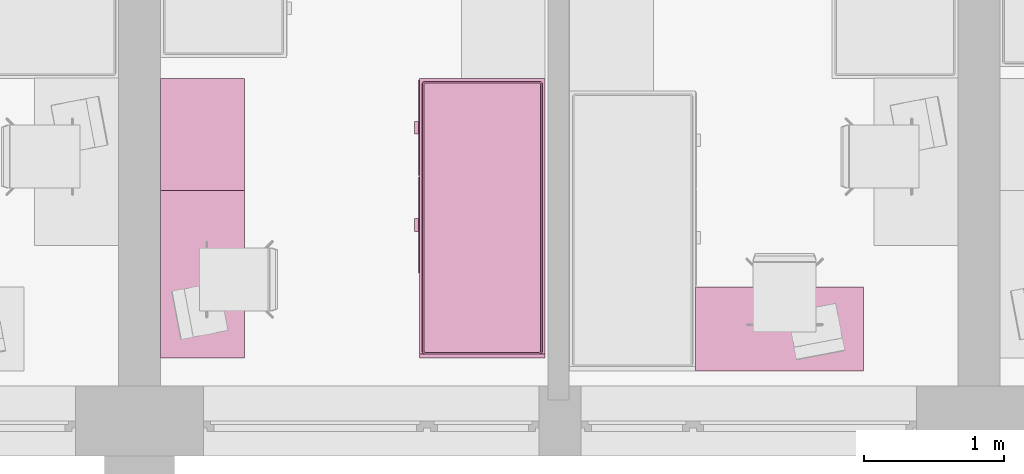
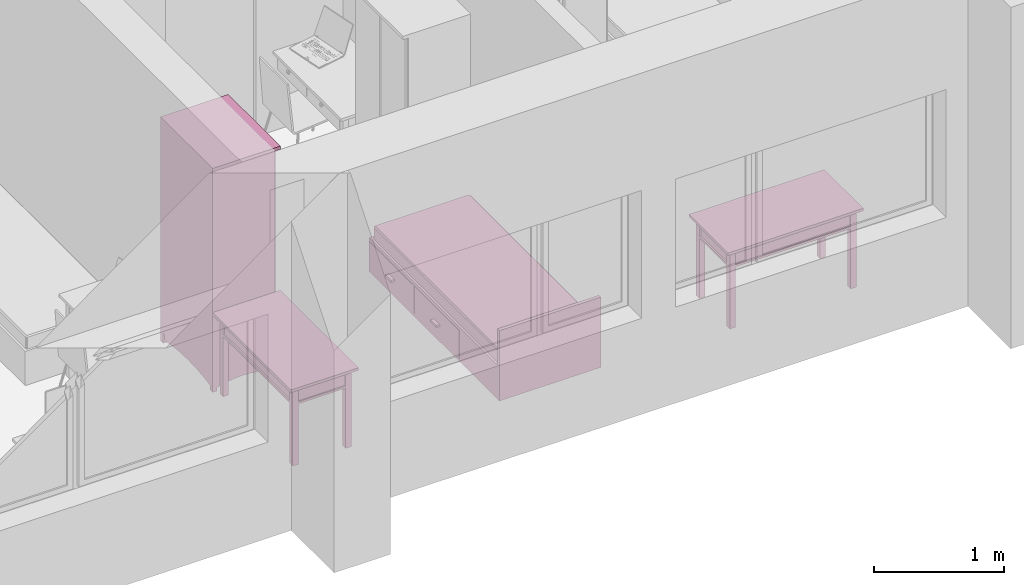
# One storey, part 76 of 165: 4 furnishings.
"""IFC2X3 building model written with IfcOpenShell, lengths in millimetres."""

from ifc_helpers import new_model, entity, si_unit, converted_unit, money_unit, direction, frame, origin_with_axes, place, context, subcontext, project, spatial, faceted_brep, source, transform, mapped, material, material_list, type_object, element, save


model = new_model("IFC2X3")

# Units and contexts
model_context = context("Model", 3, precision=1e-05, world=origin_with_axes(), true_north=direction((0.0, 1.0)))
body_context = subcontext(model_context, "Body", "Model", "MODEL_VIEW")
ifc_project = project(units=[si_unit("LENGTHUNIT", "METRE", prefix="MILLI"), si_unit("AREAUNIT", "SQUARE_METRE"), si_unit("VOLUMEUNIT", "CUBIC_METRE"), converted_unit("PLANEANGLEUNIT", "DEGREE", entity("IfcPlaneAngleMeasure", 0.0174532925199), si_unit("PLANEANGLEUNIT", "RADIAN"), dimensions=[0, 0, 0, 0, 0, 0, 0]), si_unit("SOLIDANGLEUNIT", "STERADIAN"), money_unit("USD"), converted_unit("TIMEUNIT", "Year", entity("IfcTimeMeasure", 31556926.0), si_unit("TIMEUNIT", "SECOND"), dimensions=[0, 0, 0, 0, 0, 0, 0]), si_unit("MASSUNIT", "GRAM"), si_unit("THERMODYNAMICTEMPERATUREUNIT", "DEGREE_CELSIUS"), si_unit("LUMINOUSINTENSITYUNIT", "LUMEN")], contexts=[model_context])

# Site, building, storey
site_placement = place(None, origin_with_axes())
site = spatial("IfcSite", under=ifc_project, at=site_placement, Name="Site", CompositionType="ELEMENT")
building_placement = place(site_placement, origin_with_axes())
building = spatial("IfcBuilding", under=site, at=building_placement, Name="Building", CompositionType="ELEMENT")
storey_placement = place(building_placement, frame((0.0, 0.0, 6300.0), z_axis=(0.0, 0.0, 1.0), x_axis=(1.0, 0.0, 0.0)))
storey = spatial("IfcBuildingStorey", under=building, at=storey_placement, Name="4KORRUS", CompositionType="ELEMENT", Elevation=6300.0)

# Furnishings
ifc_material = material(Name="Background")
ifc_material_list = material_list([ifc_material])
furnishing_element_type_1 = type_object("IfcFurnishingElementType", Name="Bed 19")
shared_shape_1 = source(origin_with_axes(), body_context, "Body", "Brep", [
    faceted_brep([(900.0, 1970.0, 0.0), (0.0, 1970.0, 0.0), (0.0, 2000.0, 0.0), (900.0, 2000.0, 0.0), (900.0, 1970.0, 660.0), (0.0, 1970.0, 660.0), (0.0, 2000.0, 660.0), (900.0, 2000.0, 660.0)], [[[0, 1, 2, 3]], [[1, 0, 4, 5]], [[2, 1, 5, 6]], [[3, 2, 6, 7]], [[0, 3, 7, 4]], [[5, 4, 7, 6]]]),
    faceted_brep([(900.0, 0.0, 0.0), (0.0, 0.0, 0.0), (0.0, 1970.0, 0.0), (900.0, 1970.0, 0.0), (900.0, 0.0, 320.0), (0.0, 0.0, 320.0), (0.0, 1970.0, 320.0), (900.0, 1970.0, 320.0)], [[[0, 1, 2, 3]], [[1, 0, 4, 5]], [[2, 1, 5, 6]], [[3, 2, 6, 7]], [[0, 3, 7, 4]], [[5, 4, 7, 6]]]),
    faceted_brep([(905.0, 10.0, 30.0), (900.0, 10.0, 30.0), (900.0, 695.0, 30.0), (905.0, 695.0, 30.0), (905.0, 10.0, 290.0), (900.0, 10.0, 290.0), (900.0, 695.0, 290.0), (905.0, 695.0, 290.0)], [[[0, 1, 2, 3]], [[1, 0, 4, 5]], [[2, 1, 5, 6]], [[3, 2, 6, 7]], [[0, 3, 7, 4]], [[5, 4, 7, 6]]]),
    faceted_brep([(935.0, 307.5, 150.0), (905.0, 307.5, 150.0), (905.0, 397.5, 150.0), (935.0, 397.5, 150.0), (935.0, 307.5, 170.0), (905.0, 307.5, 170.0), (905.0, 397.5, 170.0), (935.0, 397.5, 170.0)], [[[0, 1, 2, 3]], [[1, 0, 4, 5]], [[2, 1, 5, 6]], [[3, 2, 6, 7]], [[0, 3, 7, 4]], [[5, 4, 7, 6]]]),
    faceted_brep([(905.0, 705.0, 30.0), (900.0, 705.0, 30.0), (900.0, 1390.0, 30.0), (905.0, 1390.0, 30.0), (905.0, 705.0, 290.0), (900.0, 705.0, 290.0), (900.0, 1390.0, 290.0), (905.0, 1390.0, 290.0)], [[[0, 1, 2, 3]], [[1, 0, 4, 5]], [[2, 1, 5, 6]], [[3, 2, 6, 7]], [[0, 3, 7, 4]], [[5, 4, 7, 6]]]),
    faceted_brep([(935.0, 1002.5, 150.0), (905.0, 1002.5, 150.0), (905.0, 1092.5, 150.0), (935.0, 1092.5, 150.0), (935.0, 1002.5, 170.0), (905.0, 1002.5, 170.0), (905.0, 1092.5, 170.0), (935.0, 1092.5, 170.0)], [[[0, 1, 2, 3]], [[1, 0, 4, 5]], [[2, 1, 5, 6]], [[3, 2, 6, 7]], [[0, 3, 7, 4]], [[5, 4, 7, 6]]]),
    faceted_brep([(20.0, 40.0, 350.0), (20.0, 1950.0, 350.0), (21.522, 1957.654, 350.0), (25.858, 1964.142, 350.0), (32.346, 1968.478, 350.0), (40.0, 1970.0, 350.0), (860.0, 1970.0, 350.0), (867.654, 1968.478, 350.0), (874.142, 1964.142, 350.0), (878.478, 1957.654, 350.0), (880.0, 1950.0, 350.0), (880.0, 40.0, 350.0), (878.478, 32.346, 350.0), (874.142, 25.858, 350.0), (867.654, 21.522, 350.0), (860.0, 20.0, 350.0), (40.0, 20.0, 350.0), (32.346, 21.522, 350.0), (25.858, 25.858, 350.0), (21.522, 32.346, 350.0), (20.0, 40.0, 420.0), (20.0, 1950.0, 420.0), (21.522, 1957.654, 420.0), (25.858, 1964.142, 420.0), (32.346, 1968.478, 420.0), (40.0, 1970.0, 420.0), (860.0, 1970.0, 420.0), (867.654, 1968.478, 420.0), (874.142, 1964.142, 420.0), (878.478, 1957.654, 420.0), (880.0, 1950.0, 420.0), (880.0, 40.0, 420.0), (878.478, 32.346, 420.0), (874.142, 25.858, 420.0), (867.654, 21.522, 420.0), (860.0, 20.0, 420.0), (40.0, 20.0, 420.0), (32.346, 21.522, 420.0), (25.858, 25.858, 420.0), (21.522, 32.346, 420.0), (21.522, 40.15, 427.654), (21.522, 1949.85, 427.654), (22.956, 1957.06, 427.654), (26.955, 1963.045, 427.654), (32.94, 1967.044, 427.654), (40.15, 1968.478, 427.654), (859.85, 1968.478, 427.654), (867.06, 1967.044, 427.654), (873.045, 1963.045, 427.654), (877.044, 1957.06, 427.654), (878.478, 1949.85, 427.654), (878.478, 40.15, 427.654), (877.044, 32.94, 427.654), (873.045, 26.955, 427.654), (867.06, 22.956, 427.654), (859.85, 21.522, 427.654), (40.15, 21.522, 427.654), (32.94, 22.956, 427.654), (26.955, 26.955, 427.654), (22.956, 32.94, 427.654), (32.346, 41.216, 438.478), (32.346, 1948.784, 438.478), (33.152, 1952.836, 438.478), (34.759, 1955.241, 438.478), (37.164, 1956.848, 438.478), (41.216, 1957.654, 438.478), (858.784, 1957.654, 438.478), (862.836, 1956.848, 438.478), (865.241, 1955.241, 438.478), (866.848, 1952.836, 438.478), (867.654, 1948.784, 438.478), (867.654, 41.216, 438.478), (866.848, 37.164, 438.478), (865.241, 34.759, 438.478), (862.836, 33.152, 438.478), (858.784, 32.346, 438.478), (41.216, 32.346, 438.478), (37.164, 33.152, 438.478), (34.759, 34.759, 438.478), (33.152, 37.164, 438.478), (40.0, 41.97, 440.0), (40.0, 1948.03, 440.0), (40.327, 1949.673, 440.0), (40.0, 1950.0, 439.924), (41.97, 1950.0, 440.0), (858.03, 1950.0, 440.0), (859.673, 1949.673, 440.0), (860.0, 1950.0, 439.924), (860.0, 1948.03, 440.0), (860.0, 41.97, 440.0), (859.673, 40.327, 440.0), (860.0, 40.0, 439.924), (858.03, 40.0, 440.0), (41.97, 40.0, 440.0), (40.327, 40.327, 440.0), (40.0, 40.0, 439.924)], [[[0, 1, 2, 3, 4, 5, 6, 7, 8, 9, 10, 11, 12, 13, 14, 15, 16, 17, 18, 19]], [[1, 0, 20, 21]], [[2, 1, 21, 22]], [[3, 2, 22, 23]], [[4, 3, 23, 24]], [[5, 4, 24, 25]], [[6, 5, 25, 26]], [[7, 6, 26, 27]], [[8, 7, 27, 28]], [[9, 8, 28, 29]], [[10, 9, 29, 30]], [[11, 10, 30, 31]], [[12, 11, 31, 32]], [[13, 12, 32, 33]], [[14, 13, 33, 34]], [[15, 14, 34, 35]], [[16, 15, 35, 36]], [[17, 16, 36, 37]], [[18, 17, 37, 38]], [[19, 18, 38, 39]], [[0, 19, 39, 20]], [[21, 20, 40, 41]], [[22, 21, 41, 42]], [[23, 22, 42, 43]], [[24, 23, 43, 44]], [[25, 24, 44, 45]], [[26, 25, 45, 46]], [[27, 26, 46, 47]], [[28, 27, 47, 48]], [[29, 28, 48, 49]], [[30, 29, 49, 50]], [[31, 30, 50, 51]], [[32, 31, 51, 52]], [[33, 32, 52, 53]], [[34, 33, 53, 54]], [[35, 34, 54, 55]], [[36, 35, 55, 56]], [[37, 36, 56, 57]], [[38, 37, 57, 58]], [[39, 38, 58, 59]], [[20, 39, 59, 40]], [[41, 40, 60, 61]], [[42, 41, 61, 62]], [[43, 42, 62, 63]], [[44, 43, 63, 64]], [[45, 44, 64, 65]], [[46, 45, 65, 66]], [[47, 46, 66, 67]], [[48, 47, 67, 68]], [[49, 48, 68, 69]], [[50, 49, 69, 70]], [[51, 50, 70, 71]], [[52, 51, 71, 72]], [[53, 52, 72, 73]], [[54, 53, 73, 74]], [[55, 54, 74, 75]], [[56, 55, 75, 76]], [[57, 56, 76, 77]], [[58, 57, 77, 78]], [[59, 58, 78, 79]], [[40, 59, 79, 60]], [[61, 60, 80, 81]], [[62, 61, 81, 82, 83]], [[63, 62, 83]], [[64, 63, 83]], [[65, 64, 83, 82, 84]], [[66, 65, 84, 85]], [[67, 66, 85, 86, 87]], [[68, 67, 87]], [[69, 68, 87]], [[70, 69, 87, 86, 88]], [[71, 70, 88, 89]], [[72, 71, 89, 90, 91]], [[73, 72, 91]], [[74, 73, 91]], [[75, 74, 91, 90, 92]], [[76, 75, 92, 93]], [[77, 76, 93, 94, 95]], [[78, 77, 95]], [[79, 78, 95]], [[60, 79, 95, 94, 80]], [[81, 80, 94, 93, 92, 90, 89, 88, 86, 85, 84, 82]]]),
    faceted_brep([(20.0, 40.0, 350.0), (21.522, 32.346, 350.0), (25.858, 25.858, 350.0), (32.346, 21.522, 350.0), (40.0, 20.0, 350.0), (860.0, 20.0, 350.0), (867.654, 21.522, 350.0), (874.142, 25.858, 350.0), (878.478, 32.346, 350.0), (880.0, 40.0, 350.0), (880.0, 1950.0, 350.0), (878.478, 1957.654, 350.0), (874.142, 1964.142, 350.0), (867.654, 1968.478, 350.0), (860.0, 1970.0, 350.0), (40.0, 1970.0, 350.0), (32.346, 1968.478, 350.0), (25.858, 1964.142, 350.0), (21.522, 1957.654, 350.0), (20.0, 1950.0, 350.0), (20.0, 40.0, 320.0), (21.522, 32.346, 320.0), (25.858, 25.858, 320.0), (32.346, 21.522, 320.0), (40.0, 20.0, 320.0), (860.0, 20.0, 320.0), (867.654, 21.522, 320.0), (874.142, 25.858, 320.0), (878.478, 32.346, 320.0), (880.0, 40.0, 320.0), (880.0, 1950.0, 320.0), (878.478, 1957.654, 320.0), (874.142, 1964.142, 320.0), (867.654, 1968.478, 320.0), (860.0, 1970.0, 320.0), (40.0, 1970.0, 320.0), (32.346, 1968.478, 320.0), (25.858, 1964.142, 320.0), (21.522, 1957.654, 320.0), (20.0, 1950.0, 320.0)], [[[0, 1, 2, 3, 4, 5, 6, 7, 8, 9, 10, 11, 12, 13, 14, 15, 16, 17, 18, 19]], [[0, 20, 21, 1]], [[1, 21, 22, 2]], [[2, 22, 23, 3]], [[3, 23, 24, 4]], [[4, 24, 25, 5]], [[5, 25, 26, 6]], [[6, 26, 27, 7]], [[7, 27, 28, 8]], [[8, 28, 29, 9]], [[9, 29, 30, 10]], [[10, 30, 31, 11]], [[11, 31, 32, 12]], [[12, 32, 33, 13]], [[13, 33, 34, 14]], [[14, 34, 35, 15]], [[15, 35, 36, 16]], [[16, 36, 37, 17]], [[17, 37, 38, 18]], [[18, 38, 39, 19]], [[19, 39, 20, 0]], [[20, 39, 38, 37, 36, 35, 34, 33, 32, 31, 30, 29, 28, 27, 26, 25, 24, 23, 22, 21]]]),
])
furnishing_1_placement = place(storey_placement, frame((-33240.2967033, -17439.2398994, 0.0), z_axis=(0.0, 0.0, 1.0), x_axis=(-1.0, 0.0, 0.0)))
element("IfcFurnishingElement", 1, at=furnishing_1_placement, inside=storey, type_object=furnishing_element_type_1, material=ifc_material_list, Name="FU - 013", context=body_context, shape_type="MappedRepresentation", body=[
    mapped(shared_shape_1, transform((0.0, 0.0, 0.0))),
])
furnishing_element_type_2 = type_object("IfcFurnishingElementType", Name="Cupboard 19")
shared_shape_2 = source(origin_with_axes(), body_context, "Body", "Brep", [
    faceted_brep([(780.0, 600.0, 120.0), (780.0, 600.0, 2050.0), (780.0, 580.0, 2050.0), (780.0, 580.0, 120.0), (20.0, 600.0, 120.0), (20.0, 600.0, 2050.0), (20.0, 580.0, 2050.0), (20.0, 580.0, 120.0)], [[[0, 1, 2, 3]], [[4, 5, 1, 0]], [[1, 5, 6, 2]], [[3, 2, 6, 7]], [[0, 3, 7, 4]], [[7, 6, 5, 4]]]),
    faceted_brep([(0.0, 50.0, 100.0), (0.0, 600.0, 100.0), (20.0, 600.0, 100.0), (20.0, 50.0, 100.0), (0.0, 50.0, 2070.0), (0.0, 600.0, 2070.0), (20.0, 600.0, 2070.0), (20.0, 50.0, 2070.0)], [[[0, 1, 2, 3]], [[0, 4, 5, 1]], [[1, 5, 6, 2]], [[2, 6, 7, 3]], [[3, 7, 4, 0]], [[7, 6, 5, 4]]]),
    faceted_brep([(780.0, 50.0, 100.0), (780.0, 600.0, 100.0), (800.0, 600.0, 100.0), (800.0, 50.0, 100.0), (780.0, 50.0, 2070.0), (780.0, 600.0, 2070.0), (800.0, 600.0, 2070.0), (800.0, 50.0, 2070.0)], [[[0, 1, 2, 3]], [[0, 4, 5, 1]], [[1, 5, 6, 2]], [[2, 6, 7, 3]], [[3, 7, 4, 0]], [[7, 6, 5, 4]]]),
    faceted_brep([(20.0, 50.0, 100.0), (20.0, 600.0, 100.0), (780.0, 600.0, 100.0), (780.0, 50.0, 100.0), (20.0, 50.0, 120.0), (20.0, 600.0, 120.0), (780.0, 600.0, 120.0), (780.0, 50.0, 120.0)], [[[0, 1, 2, 3]], [[0, 4, 5, 1]], [[1, 5, 6, 2]], [[2, 6, 7, 3]], [[3, 7, 4, 0]], [[7, 6, 5, 4]]]),
    faceted_brep([(20.0, 50.0, 2050.0), (20.0, 600.0, 2050.0), (780.0, 600.0, 2050.0), (780.0, 50.0, 2050.0), (20.0, 50.0, 2070.0), (20.0, 600.0, 2070.0), (780.0, 600.0, 2070.0), (780.0, 50.0, 2070.0)], [[[0, 1, 2, 3]], [[0, 4, 5, 1]], [[1, 5, 6, 2]], [[2, 6, 7, 3]], [[3, 7, 4, 0]], [[7, 6, 5, 4]]]),
    faceted_brep([(0.0, 600.0, 2070.0), (0.0, 0.0, 2070.0), (0.0, 0.0, 2100.0), (0.0, 600.0, 2100.0), (800.0, 600.0, 2070.0), (800.0, 0.0, 2070.0), (800.0, 0.0, 2100.0), (800.0, 600.0, 2100.0)], [[[0, 1, 2, 3]], [[0, 4, 5, 1]], [[1, 5, 6, 2]], [[3, 2, 6, 7]], [[4, 0, 3, 7]], [[5, 4, 7, 6]]]),
    faceted_brep([(760.0, 590.0, 25.0), (760.0, 570.0, 25.0), (640.962, 570.0, 45.8), (640.962, 590.0, 45.8), (760.0, 590.0, 100.0), (760.0, 570.0, 100.0), (40.0, 570.0, 100.0), (40.0, 570.0, 25.0), (159.038, 570.0, 45.8), (279.23, 570.0, 58.32), (400.0, 570.0, 62.5), (520.77, 570.0, 58.32), (520.77, 590.0, 58.32), (400.0, 590.0, 62.5), (279.23, 590.0, 58.32), (159.038, 590.0, 45.8), (40.0, 590.0, 25.0), (40.0, 590.0, 100.0)], [[[0, 1, 2, 3]], [[4, 5, 1, 0]], [[1, 5, 6, 7, 8, 9, 10, 11, 2]], [[3, 2, 11, 12]], [[0, 3, 12, 13, 14, 15, 16, 17, 4]], [[17, 6, 5, 4]], [[16, 7, 6, 17]], [[15, 8, 7, 16]], [[14, 9, 8, 15]], [[13, 10, 9, 14]], [[12, 11, 10, 13]]]),
    faceted_brep([(760.0, 80.0, 25.0), (760.0, 60.0, 25.0), (640.962, 60.0, 45.8), (640.962, 80.0, 45.8), (760.0, 80.0, 100.0), (760.0, 60.0, 100.0), (40.0, 60.0, 100.0), (40.0, 60.0, 25.0), (159.038, 60.0, 45.8), (279.23, 60.0, 58.32), (400.0, 60.0, 62.5), (520.77, 60.0, 58.32), (520.77, 80.0, 58.32), (400.0, 80.0, 62.5), (279.23, 80.0, 58.32), (159.038, 80.0, 45.8), (40.0, 80.0, 25.0), (40.0, 80.0, 100.0)], [[[0, 1, 2, 3]], [[4, 5, 1, 0]], [[1, 5, 6, 7, 8, 9, 10, 11, 2]], [[3, 2, 11, 12]], [[0, 3, 12, 13, 14, 15, 16, 17, 4]], [[17, 6, 5, 4]], [[16, 7, 6, 17]], [[15, 8, 7, 16]], [[14, 9, 8, 15]], [[13, 10, 9, 14]], [[12, 11, 10, 13]]]),
    faceted_brep([(790.0, 90.0, 25.0), (770.0, 90.0, 25.0), (770.0, 141.266, 38.072), (790.0, 141.266, 38.072), (790.0, 90.0, 100.0), (770.0, 90.0, 100.0), (770.0, 560.0, 100.0), (770.0, 560.0, 25.0), (770.0, 508.734, 38.072), (770.0, 456.752, 47.92), (770.0, 404.257, 54.508), (770.0, 351.453, 57.808), (770.0, 298.547, 57.808), (770.0, 245.743, 54.508), (770.0, 193.248, 47.92), (790.0, 193.248, 47.92), (790.0, 245.743, 54.508), (790.0, 298.547, 57.808), (790.0, 351.453, 57.808), (790.0, 404.257, 54.508), (790.0, 456.752, 47.92), (790.0, 508.734, 38.072), (790.0, 560.0, 25.0), (790.0, 560.0, 100.0)], [[[0, 1, 2, 3]], [[4, 5, 1, 0]], [[1, 5, 6, 7, 8, 9, 10, 11, 12, 13, 14, 2]], [[3, 2, 14, 15]], [[0, 3, 15, 16, 17, 18, 19, 20, 21, 22, 23, 4]], [[23, 6, 5, 4]], [[22, 7, 6, 23]], [[21, 8, 7, 22]], [[20, 9, 8, 21]], [[19, 10, 9, 20]], [[18, 11, 10, 19]], [[17, 12, 11, 18]], [[16, 13, 12, 17]], [[15, 14, 13, 16]]]),
    faceted_brep([(30.0, 90.0, 25.0), (10.0, 90.0, 25.0), (10.0, 141.266, 38.072), (30.0, 141.266, 38.072), (30.0, 90.0, 100.0), (10.0, 90.0, 100.0), (10.0, 560.0, 100.0), (10.0, 560.0, 25.0), (10.0, 508.734, 38.072), (10.0, 456.752, 47.92), (10.0, 404.257, 54.508), (10.0, 351.453, 57.808), (10.0, 298.547, 57.808), (10.0, 245.743, 54.508), (10.0, 193.248, 47.92), (30.0, 193.248, 47.92), (30.0, 245.743, 54.508), (30.0, 298.547, 57.808), (30.0, 351.453, 57.808), (30.0, 404.257, 54.508), (30.0, 456.752, 47.92), (30.0, 508.734, 38.072), (30.0, 560.0, 25.0), (30.0, 560.0, 100.0)], [[[0, 1, 2, 3]], [[4, 5, 1, 0]], [[1, 5, 6, 7, 8, 9, 10, 11, 12, 13, 14, 2]], [[3, 2, 14, 15]], [[0, 3, 15, 16, 17, 18, 19, 20, 21, 22, 23, 4]], [[23, 6, 5, 4]], [[22, 7, 6, 23]], [[21, 8, 7, 22]], [[20, 9, 8, 21]], [[19, 10, 9, 20]], [[18, 11, 10, 19]], [[17, 12, 11, 18]], [[16, 13, 12, 17]], [[15, 14, 13, 16]]]),
    faceted_brep([(760.0, 560.0, 0.0), (760.0, 560.0, 100.0), (760.0, 600.0, 100.0), (760.0, 600.0, 0.0), (800.0, 560.0, 0.0), (800.0, 560.0, 100.0), (800.0, 600.0, 100.0), (800.0, 600.0, 0.0)], [[[0, 1, 2, 3]], [[4, 5, 1, 0]], [[1, 5, 6, 2]], [[3, 2, 6, 7]], [[0, 3, 7, 4]], [[7, 6, 5, 4]]]),
    faceted_brep([(0.0, 560.0, 0.0), (0.0, 560.0, 100.0), (0.0, 600.0, 100.0), (0.0, 600.0, 0.0), (40.0, 560.0, 0.0), (40.0, 560.0, 100.0), (40.0, 600.0, 100.0), (40.0, 600.0, 0.0)], [[[0, 1, 2, 3]], [[4, 5, 1, 0]], [[1, 5, 6, 2]], [[3, 2, 6, 7]], [[0, 3, 7, 4]], [[7, 6, 5, 4]]]),
    faceted_brep([(760.0, 50.0, 0.0), (760.0, 50.0, 100.0), (760.0, 90.0, 100.0), (760.0, 90.0, 0.0), (800.0, 50.0, 0.0), (800.0, 50.0, 100.0), (800.0, 90.0, 100.0), (800.0, 90.0, 0.0)], [[[0, 1, 2, 3]], [[4, 5, 1, 0]], [[1, 5, 6, 2]], [[3, 2, 6, 7]], [[0, 3, 7, 4]], [[7, 6, 5, 4]]]),
    faceted_brep([(0.0, 50.0, 0.0), (0.0, 50.0, 100.0), (0.0, 90.0, 100.0), (0.0, 90.0, 0.0), (40.0, 50.0, 0.0), (40.0, 50.0, 100.0), (40.0, 90.0, 100.0), (40.0, 90.0, 0.0)], [[[0, 1, 2, 3]], [[4, 5, 1, 0]], [[1, 5, 6, 2]], [[3, 2, 6, 7]], [[0, 3, 7, 4]], [[7, 6, 5, 4]]]),
    faceted_brep([(780.0, 580.0, 587.5), (780.0, 580.0, 607.5), (780.0, 50.0, 607.5), (780.0, 50.0, 587.5), (20.0, 580.0, 587.5), (20.0, 580.0, 607.5), (20.0, 50.0, 607.5), (20.0, 50.0, 587.5)], [[[0, 1, 2, 3]], [[4, 5, 1, 0]], [[1, 5, 6, 2]], [[3, 2, 6, 7]], [[0, 3, 7, 4]], [[7, 6, 5, 4]]]),
    faceted_brep([(780.0, 580.0, 1075.0), (780.0, 580.0, 1095.0), (780.0, 50.0, 1095.0), (780.0, 50.0, 1075.0), (20.0, 580.0, 1075.0), (20.0, 580.0, 1095.0), (20.0, 50.0, 1095.0), (20.0, 50.0, 1075.0)], [[[0, 1, 2, 3]], [[4, 5, 1, 0]], [[1, 5, 6, 2]], [[3, 2, 6, 7]], [[0, 3, 7, 4]], [[7, 6, 5, 4]]]),
    faceted_brep([(780.0, 580.0, 1562.5), (780.0, 580.0, 1582.5), (780.0, 50.0, 1582.5), (780.0, 50.0, 1562.5), (20.0, 580.0, 1562.5), (20.0, 580.0, 1582.5), (20.0, 50.0, 1582.5), (20.0, 50.0, 1562.5)], [[[0, 1, 2, 3]], [[4, 5, 1, 0]], [[1, 5, 6, 2]], [[3, 2, 6, 7]], [[0, 3, 7, 4]], [[7, 6, 5, 4]]]),
    faceted_brep([(789.5, 50.0, 110.5), (400.5, 50.0, 110.5), (400.5, 50.0, 2059.5), (789.5, 50.0, 2059.5), (789.5, 40.0, 110.5), (400.5, 40.0, 110.5), (400.5, 40.0, 2059.5), (789.5, 40.0, 2059.5), (779.5, 30.0, 120.5), (410.5, 30.0, 120.5), (410.5, 30.0, 2049.5), (779.5, 30.0, 2049.5)], [[[0, 1, 2, 3]], [[0, 4, 5, 1]], [[1, 5, 6, 2]], [[2, 6, 7, 3]], [[3, 7, 4, 0]], [[4, 8, 9, 5]], [[5, 9, 10, 6]], [[6, 10, 11, 7]], [[7, 11, 8, 4]], [[10, 9, 8, 11]]]),
    faceted_brep([(399.5, 50.0, 110.5), (10.5, 50.0, 110.5), (10.5, 50.0, 2059.5), (399.5, 50.0, 2059.5), (399.5, 40.0, 110.5), (10.5, 40.0, 110.5), (10.5, 40.0, 2059.5), (399.5, 40.0, 2059.5), (389.5, 30.0, 120.5), (20.5, 30.0, 120.5), (20.5, 30.0, 2049.5), (389.5, 30.0, 2049.5)], [[[0, 1, 2, 3]], [[0, 4, 5, 1]], [[1, 5, 6, 2]], [[2, 6, 7, 3]], [[3, 7, 4, 0]], [[4, 8, 9, 5]], [[5, 9, 10, 6]], [[6, 10, 11, 7]], [[7, 11, 8, 4]], [[10, 9, 8, 11]]]),
    faceted_brep([(339.608, 30.0, 954.0), (338.0, 30.0, 960.0), (339.608, 30.0, 966.0), (344.0, 30.0, 970.392), (350.0, 30.0, 972.0), (356.0, 30.0, 970.392), (360.392, 30.0, 966.0), (362.0, 30.0, 960.0), (360.392, 30.0, 954.0), (356.0, 30.0, 949.608), (350.0, 30.0, 948.0), (344.0, 30.0, 949.608), (339.608, 5.0, 954.0), (338.0, 5.0, 960.0), (339.608, 5.0, 966.0), (344.0, 5.0, 970.392), (350.0, 5.0, 972.0), (356.0, 5.0, 970.392), (360.392, 5.0, 966.0), (362.0, 5.0, 960.0), (360.392, 5.0, 954.0), (356.0, 5.0, 949.608), (350.0, 5.0, 948.0), (344.0, 5.0, 949.608)], [[[0, 1, 2, 3, 4, 5, 6, 7, 8, 9, 10, 11]], [[0, 12, 13, 1]], [[1, 13, 14, 2]], [[2, 14, 15, 3]], [[3, 15, 16, 4]], [[4, 16, 17, 5]], [[5, 17, 18, 6]], [[6, 18, 19, 7]], [[7, 19, 20, 8]], [[8, 20, 21, 9]], [[9, 21, 22, 10]], [[10, 22, 23, 11]], [[11, 23, 12, 0]], [[12, 23, 22, 21, 20, 19, 18, 17, 16, 15, 14, 13]]]),
    faceted_brep([(460.392, 30.0, 954.0), (456.0, 30.0, 949.608), (450.0, 30.0, 948.0), (444.0, 30.0, 949.608), (439.608, 30.0, 954.0), (438.0, 30.0, 960.0), (439.608, 30.0, 966.0), (444.0, 30.0, 970.392), (450.0, 30.0, 972.0), (456.0, 30.0, 970.392), (460.392, 30.0, 966.0), (462.0, 30.0, 960.0), (460.392, 5.0, 954.0), (456.0, 5.0, 949.608), (450.0, 5.0, 948.0), (444.0, 5.0, 949.608), (439.608, 5.0, 954.0), (438.0, 5.0, 960.0), (439.608, 5.0, 966.0), (444.0, 5.0, 970.392), (450.0, 5.0, 972.0), (456.0, 5.0, 970.392), (460.392, 5.0, 966.0), (462.0, 5.0, 960.0)], [[[0, 1, 2, 3, 4, 5, 6, 7, 8, 9, 10, 11]], [[1, 0, 12, 13]], [[2, 1, 13, 14]], [[3, 2, 14, 15]], [[4, 3, 15, 16]], [[5, 4, 16, 17]], [[6, 5, 17, 18]], [[7, 6, 18, 19]], [[8, 7, 19, 20]], [[9, 8, 20, 21]], [[10, 9, 21, 22]], [[11, 10, 22, 23]], [[0, 11, 23, 12]], [[12, 23, 22, 21, 20, 19, 18, 17, 16, 15, 14, 13]]]),
])
furnishing_2_placement = place(storey_placement, frame((-35390.2967033, -18239.2398994, 0.0), z_axis=(0.0, 0.0, 1.0), x_axis=(0.0, 1.0, 0.0)))
element("IfcFurnishingElement", 2, at=furnishing_2_placement, inside=storey, type_object=furnishing_element_type_2, material=ifc_material_list, Name="FU - 014", context=body_context, shape_type="MappedRepresentation", body=[
    mapped(shared_shape_2, transform((0.0, 0.0, 0.0))),
])
furnishing_element_type_3 = type_object("IfcFurnishingElementType", Name="Rectangular Table 01 19")
shared_shape_3 = source(origin_with_axes(), body_context, "Body", "Brep", [
    faceted_brep([(90.0, 40.0, 0.0), (40.0, 40.0, 0.0), (40.0, 90.0, 0.0), (90.0, 90.0, 0.0), (90.0, 40.0, 725.0), (40.0, 40.0, 725.0), (40.0, 90.0, 725.0), (90.0, 90.0, 725.0)], [[[0, 1, 2, 3]], [[1, 0, 4, 5]], [[2, 1, 5, 6]], [[3, 2, 6, 7]], [[0, 3, 7, 4]], [[5, 4, 7, 6]]]),
    faceted_brep([(1160.0, 40.0, 0.0), (1110.0, 40.0, 0.0), (1110.0, 90.0, 0.0), (1160.0, 90.0, 0.0), (1160.0, 40.0, 725.0), (1110.0, 40.0, 725.0), (1110.0, 90.0, 725.0), (1160.0, 90.0, 725.0)], [[[0, 1, 2, 3]], [[1, 0, 4, 5]], [[2, 1, 5, 6]], [[3, 2, 6, 7]], [[0, 3, 7, 4]], [[5, 4, 7, 6]]]),
    faceted_brep([(90.0, 510.0, 0.0), (40.0, 510.0, 0.0), (40.0, 560.0, 0.0), (90.0, 560.0, 0.0), (90.0, 510.0, 725.0), (40.0, 510.0, 725.0), (40.0, 560.0, 725.0), (90.0, 560.0, 725.0)], [[[0, 1, 2, 3]], [[1, 0, 4, 5]], [[2, 1, 5, 6]], [[3, 2, 6, 7]], [[0, 3, 7, 4]], [[5, 4, 7, 6]]]),
    faceted_brep([(1160.0, 510.0, 0.0), (1110.0, 510.0, 0.0), (1110.0, 560.0, 0.0), (1160.0, 560.0, 0.0), (1160.0, 510.0, 725.0), (1110.0, 510.0, 725.0), (1110.0, 560.0, 725.0), (1160.0, 560.0, 725.0)], [[[0, 1, 2, 3]], [[1, 0, 4, 5]], [[2, 1, 5, 6]], [[3, 2, 6, 7]], [[0, 3, 7, 4]], [[5, 4, 7, 6]]]),
    faceted_brep([(1160.0, 40.0, 565.0), (40.0, 40.0, 565.0), (40.0, 560.0, 565.0), (1160.0, 560.0, 565.0), (1160.0, 40.0, 585.0), (40.0, 40.0, 585.0), (40.0, 560.0, 585.0), (1160.0, 560.0, 585.0)], [[[0, 1, 2, 3]], [[1, 0, 4, 5]], [[2, 1, 5, 6]], [[3, 2, 6, 7]], [[0, 3, 7, 4]], [[5, 4, 7, 6]]]),
    faceted_brep([(1110.0, 52.5, 585.0), (90.0, 52.5, 585.0), (90.0, 77.5, 585.0), (1110.0, 77.5, 585.0), (1110.0, 52.5, 745.0), (90.0, 52.5, 745.0), (90.0, 77.5, 745.0), (1110.0, 77.5, 745.0)], [[[0, 1, 2, 3]], [[1, 0, 4, 5]], [[2, 1, 5, 6]], [[3, 2, 6, 7]], [[0, 3, 7, 4]], [[5, 4, 7, 6]]]),
    faceted_brep([(77.5, 90.0, 585.0), (52.5, 90.0, 585.0), (52.5, 510.0, 585.0), (77.5, 510.0, 585.0), (77.5, 90.0, 745.0), (52.5, 90.0, 745.0), (52.5, 510.0, 745.0), (77.5, 510.0, 745.0)], [[[0, 1, 2, 3]], [[1, 0, 4, 5]], [[2, 1, 5, 6]], [[3, 2, 6, 7]], [[0, 3, 7, 4]], [[5, 4, 7, 6]]]),
    faceted_brep([(90.0, 547.5, 585.0), (1110.0, 547.5, 585.0), (1110.0, 522.5, 585.0), (90.0, 522.5, 585.0), (90.0, 547.5, 745.0), (1110.0, 547.5, 745.0), (1110.0, 522.5, 745.0), (90.0, 522.5, 745.0)], [[[0, 1, 2, 3]], [[1, 0, 4, 5]], [[2, 1, 5, 6]], [[3, 2, 6, 7]], [[0, 3, 7, 4]], [[5, 4, 7, 6]]]),
    faceted_brep([(1122.5, 510.0, 585.0), (1147.5, 510.0, 585.0), (1147.5, 90.0, 585.0), (1122.5, 90.0, 585.0), (1122.5, 510.0, 745.0), (1147.5, 510.0, 745.0), (1147.5, 90.0, 745.0), (1122.5, 90.0, 745.0)], [[[0, 1, 2, 3]], [[1, 0, 4, 5]], [[2, 1, 5, 6]], [[3, 2, 6, 7]], [[0, 3, 7, 4]], [[5, 4, 7, 6]]]),
    faceted_brep([(597.5, 40.0, 585.0), (95.0, 40.0, 585.0), (95.0, 60.0, 585.0), (597.5, 60.0, 585.0), (597.5, 40.0, 745.0), (95.0, 40.0, 745.0), (95.0, 60.0, 745.0), (597.5, 60.0, 745.0)], [[[0, 1, 2, 3]], [[1, 0, 4, 5]], [[2, 1, 5, 6]], [[3, 2, 6, 7]], [[0, 3, 7, 4]], [[5, 4, 7, 6]]]),
    faceted_brep([(1105.0, 40.0, 585.0), (602.5, 40.0, 585.0), (602.5, 60.0, 585.0), (1105.0, 60.0, 585.0), (1105.0, 40.0, 745.0), (602.5, 40.0, 745.0), (602.5, 60.0, 745.0), (1105.0, 60.0, 745.0)], [[[0, 1, 2, 3]], [[1, 0, 4, 5]], [[2, 1, 5, 6]], [[3, 2, 6, 7]], [[0, 3, 7, 4]], [[5, 4, 7, 6]]]),
    faceted_brep([(354.91, 40.0, 660.0), (351.25, 40.0, 656.34), (346.25, 40.0, 655.0), (341.25, 40.0, 656.34), (337.59, 40.0, 660.0), (336.25, 40.0, 665.0), (337.59, 40.0, 670.0), (341.25, 40.0, 673.66), (346.25, 40.0, 675.0), (351.25, 40.0, 673.66), (354.91, 40.0, 670.0), (356.25, 40.0, 665.0), (354.91, 25.0, 660.0), (351.25, 25.0, 656.34), (346.25, 25.0, 655.0), (341.25, 25.0, 656.34), (337.59, 25.0, 660.0), (336.25, 25.0, 665.0), (337.59, 25.0, 670.0), (341.25, 25.0, 673.66), (346.25, 25.0, 675.0), (351.25, 25.0, 673.66), (354.91, 25.0, 670.0), (356.25, 25.0, 665.0)], [[[0, 1, 2, 3, 4, 5, 6, 7, 8, 9, 10, 11]], [[1, 0, 12, 13]], [[2, 1, 13, 14]], [[3, 2, 14, 15]], [[4, 3, 15, 16]], [[5, 4, 16, 17]], [[6, 5, 17, 18]], [[7, 6, 18, 19]], [[8, 7, 19, 20]], [[9, 8, 20, 21]], [[10, 9, 21, 22]], [[11, 10, 22, 23]], [[0, 11, 23, 12]], [[12, 23, 22, 21, 20, 19, 18, 17, 16, 15, 14, 13]]]),
    faceted_brep([(356.25, 12.01, 665.0), (346.25, 10.0, 665.0), (354.91, 12.01, 660.0), (354.91, 12.01, 670.0), (351.25, 12.01, 656.34), (363.571, 17.5, 665.0), (361.25, 17.5, 656.34), (351.25, 12.01, 673.66), (361.25, 17.5, 673.66), (346.25, 12.01, 655.0), (354.91, 17.5, 650.0), (366.25, 25.0, 665.0), (363.571, 25.0, 655.0), (346.25, 12.01, 675.0), (354.91, 17.5, 680.0), (363.571, 25.0, 675.0), (341.25, 12.01, 656.34), (346.25, 17.5, 647.679), (356.25, 25.0, 647.679), (346.25, 25.0, 645.0), (336.25, 25.0, 647.679), (328.929, 25.0, 655.0), (326.25, 25.0, 665.0), (328.929, 25.0, 675.0), (336.25, 25.0, 682.321), (346.25, 25.0, 685.0), (356.25, 25.0, 682.321), (341.25, 12.01, 673.66), (346.25, 17.5, 682.321), (337.59, 12.01, 660.0), (337.59, 17.5, 650.0), (331.25, 17.5, 656.34), (328.929, 17.5, 665.0), (331.25, 17.5, 673.66), (337.59, 17.5, 680.0), (337.59, 12.01, 670.0), (336.25, 12.01, 665.0)], [[[0, 1, 2]], [[3, 1, 0]], [[2, 1, 4]], [[5, 0, 2, 6]], [[7, 1, 3]], [[8, 3, 0, 5]], [[4, 1, 9]], [[6, 2, 4, 10]], [[11, 5, 6, 12]], [[13, 1, 7]], [[14, 7, 3, 8]], [[15, 8, 5, 11]], [[9, 1, 16]], [[10, 4, 9, 17]], [[12, 6, 10, 18]], [[12, 18, 19, 20, 21, 22, 23, 24, 25, 26, 15, 11]], [[27, 1, 13]], [[28, 13, 7, 14]], [[26, 14, 8, 15]], [[16, 1, 29]], [[17, 9, 16, 30]], [[18, 10, 17, 19]], [[19, 17, 30, 20]], [[20, 30, 31, 21]], [[21, 31, 32, 22]], [[22, 32, 33, 23]], [[23, 33, 34, 24]], [[24, 34, 28, 25]], [[25, 28, 14, 26]], [[35, 1, 27]], [[34, 27, 13, 28]], [[29, 1, 36]], [[30, 16, 29, 31]], [[31, 29, 36, 32]], [[32, 36, 35, 33]], [[33, 35, 27, 34]], [[36, 1, 35]]]),
    faceted_brep([(862.41, 40.0, 660.0), (858.75, 40.0, 656.34), (853.75, 40.0, 655.0), (848.75, 40.0, 656.34), (845.09, 40.0, 660.0), (843.75, 40.0, 665.0), (845.09, 40.0, 670.0), (848.75, 40.0, 673.66), (853.75, 40.0, 675.0), (858.75, 40.0, 673.66), (862.41, 40.0, 670.0), (863.75, 40.0, 665.0), (862.41, 25.0, 660.0), (858.75, 25.0, 656.34), (853.75, 25.0, 655.0), (848.75, 25.0, 656.34), (845.09, 25.0, 660.0), (843.75, 25.0, 665.0), (845.09, 25.0, 670.0), (848.75, 25.0, 673.66), (853.75, 25.0, 675.0), (858.75, 25.0, 673.66), (862.41, 25.0, 670.0), (863.75, 25.0, 665.0)], [[[0, 1, 2, 3, 4, 5, 6, 7, 8, 9, 10, 11]], [[1, 0, 12, 13]], [[2, 1, 13, 14]], [[3, 2, 14, 15]], [[4, 3, 15, 16]], [[5, 4, 16, 17]], [[6, 5, 17, 18]], [[7, 6, 18, 19]], [[8, 7, 19, 20]], [[9, 8, 20, 21]], [[10, 9, 21, 22]], [[11, 10, 22, 23]], [[0, 11, 23, 12]], [[12, 23, 22, 21, 20, 19, 18, 17, 16, 15, 14, 13]]]),
    faceted_brep([(863.75, 12.01, 665.0), (853.75, 10.0, 665.0), (862.41, 12.01, 660.0), (862.41, 12.01, 670.0), (858.75, 12.01, 656.34), (871.071, 17.5, 665.0), (868.75, 17.5, 656.34), (858.75, 12.01, 673.66), (868.75, 17.5, 673.66), (853.75, 12.01, 655.0), (862.41, 17.5, 650.0), (873.75, 25.0, 665.0), (871.071, 25.0, 655.0), (853.75, 12.01, 675.0), (862.41, 17.5, 680.0), (871.071, 25.0, 675.0), (848.75, 12.01, 656.34), (853.75, 17.5, 647.679), (863.75, 25.0, 647.679), (853.75, 25.0, 645.0), (843.75, 25.0, 647.679), (836.429, 25.0, 655.0), (833.75, 25.0, 665.0), (836.429, 25.0, 675.0), (843.75, 25.0, 682.321), (853.75, 25.0, 685.0), (863.75, 25.0, 682.321), (848.75, 12.01, 673.66), (853.75, 17.5, 682.321), (845.09, 12.01, 660.0), (845.09, 17.5, 650.0), (838.75, 17.5, 656.34), (836.429, 17.5, 665.0), (838.75, 17.5, 673.66), (845.09, 17.5, 680.0), (845.09, 12.01, 670.0), (843.75, 12.01, 665.0)], [[[0, 1, 2]], [[3, 1, 0]], [[2, 1, 4]], [[5, 0, 2, 6]], [[7, 1, 3]], [[8, 3, 0, 5]], [[4, 1, 9]], [[6, 2, 4, 10]], [[11, 5, 6, 12]], [[13, 1, 7]], [[14, 7, 3, 8]], [[15, 8, 5, 11]], [[9, 1, 16]], [[10, 4, 9, 17]], [[12, 6, 10, 18]], [[12, 18, 19, 20, 21, 22, 23, 24, 25, 26, 15, 11]], [[27, 1, 13]], [[28, 13, 7, 14]], [[26, 14, 8, 15]], [[16, 1, 29]], [[17, 9, 16, 30]], [[18, 10, 17, 19]], [[19, 17, 30, 20]], [[20, 30, 31, 21]], [[21, 31, 32, 22]], [[22, 32, 33, 23]], [[23, 33, 34, 24]], [[24, 34, 28, 25]], [[25, 28, 14, 26]], [[35, 1, 27]], [[34, 27, 13, 28]], [[29, 1, 36]], [[30, 16, 29, 31]], [[31, 29, 36, 32]], [[32, 36, 35, 33]], [[33, 35, 27, 34]], [[36, 1, 35]]]),
    faceted_brep([(1200.0, 0.0, 725.0), (0.0, 0.0, 725.0), (0.0, 600.0, 725.0), (1200.0, 600.0, 725.0), (1200.0, 0.0, 750.0), (0.0, 0.0, 750.0), (0.0, 600.0, 750.0), (1200.0, 600.0, 750.0)], [[[0, 1, 2, 3]], [[1, 0, 4, 5]], [[2, 1, 5, 6]], [[3, 2, 6, 7]], [[0, 3, 7, 4]], [[5, 4, 7, 6]]]),
])
for number, where, z_axis, x_axis, name in (
    (3, (-30965.2967033, -18929.2398994, 0.0), (0.0, 0.0, 1.0), (-1.0, 0.0, 0.0), "FU - 011"),
    (4, (-35390.2967033, -19439.2398994, 0.0), (0.0, 0.0, 1.0), (0.0, 1.0, 0.0), "FU - 011"),
):
    element("IfcFurnishingElement", number, at=place(storey_placement, frame(where, z_axis=z_axis, x_axis=x_axis)), inside=storey, type_object=furnishing_element_type_3, material=ifc_material_list, Name=name, context=body_context, shape_type="MappedRepresentation", body=[
        mapped(shared_shape_3, transform((0.0, 0.0, 0.0))),
    ])

save(model, "model.ifc")
